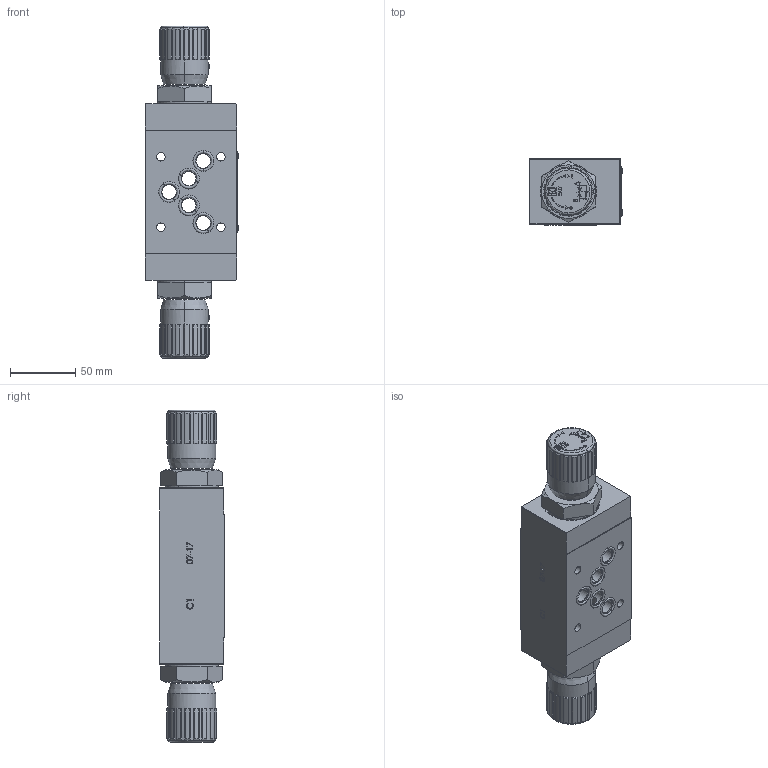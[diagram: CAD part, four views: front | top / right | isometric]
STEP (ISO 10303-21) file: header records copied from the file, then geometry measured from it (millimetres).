
FILE_DESCRIPTION (( 'STEP AP214' ), '1' );
FILE_NAME ('357-5-AB-05.STEP', '2019-12-04T07:48:38', ( '' ), ( '' ), 'SwSTEP 2.0', 'SolidWorks 2018', '' );
FILE_SCHEMA (( 'AUTOMOTIVE_DESIGN' ));
Length unit declared in the file: millimetre
Products named in the file (1): 357-5-AB-05
Bounding box: 71.66 x 50.58 x 254.6 mm (x, y, z)
Surface area: 72127.2 mm2 (no closed solid volume)
Topology: 0 solids, 95 shells, 918 faces, 4657 edges, 3740 vertices
Faces by surface type: plane 548, cylinder 175, cone 106, bspline 57, torus 24, sphere 8
Entity records: 69920 total; most frequent: CARTESIAN_POINT 25351, ORIENTED_EDGE 6444, DIRECTION 6132, EDGE_CURVE 4655, VERTEX_POINT 3740, VECTOR 3036, LINE 3036, AXIS2_PLACEMENT_3D 1548
